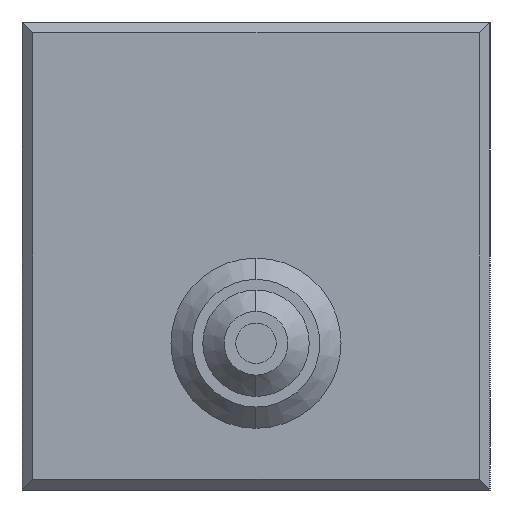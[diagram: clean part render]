
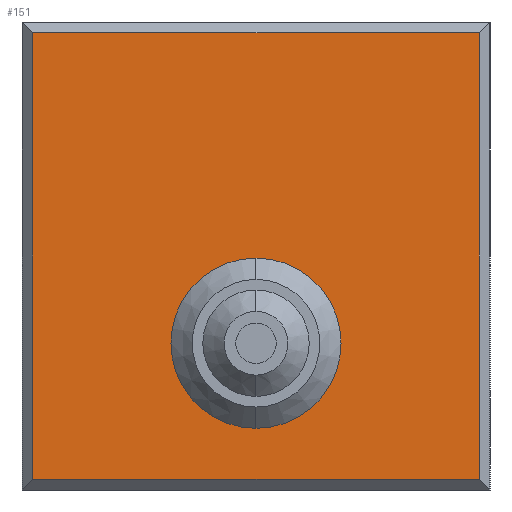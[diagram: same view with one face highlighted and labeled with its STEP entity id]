
A CAD part, left-side view. The second image highlights one B-rep face of the part: STEP entity #151.
In plain terms, the highlighted planar face has unit normal (-1, 0, 0).
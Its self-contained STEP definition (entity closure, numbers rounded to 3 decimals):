
#151=ADVANCED_FACE('',(#300,#301),#302,.F.);
#300=FACE_OUTER_BOUND('',#555,.T.);
#301=FACE_BOUND('',#556,.T.);
#302=PLANE('',#557);
#555=EDGE_LOOP('',(#957,#958,#959,#960));
#556=EDGE_LOOP('',(#961,#962));
#557=AXIS2_PLACEMENT_3D('',#963,#964,#965);
#957=ORIENTED_EDGE('',*,*,#1749,.F.);
#958=ORIENTED_EDGE('',*,*,#1750,.F.);
#959=ORIENTED_EDGE('',*,*,#1751,.F.);
#960=ORIENTED_EDGE('',*,*,#1752,.F.);
#961=ORIENTED_EDGE('',*,*,#1724,.T.);
#962=ORIENTED_EDGE('',*,*,#1734,.T.);
#963=CARTESIAN_POINT('',(-32.5,0.,0.));
#964=DIRECTION('',(1.0,0.0,0.0));
#965=DIRECTION('',(0.0,1.0,0.0));
#1724=EDGE_CURVE('',#2060,#2057,#2061,.T.);
#1734=EDGE_CURVE('',#2057,#2060,#2073,.T.);
#1749=EDGE_CURVE('',#2096,#2097,#2098,.T.);
#1750=EDGE_CURVE('',#2099,#2096,#2100,.T.);
#1751=EDGE_CURVE('',#2101,#2099,#2102,.T.);
#1752=EDGE_CURVE('',#2097,#2101,#2103,.T.);
#2057=VERTEX_POINT('',#2607);
#2060=VERTEX_POINT('',#2611);
#2061=CIRCLE('',#2612,1.5);
#2073=CIRCLE('',#2660,1.5);
#2096=VERTEX_POINT('',#2723);
#2097=VERTEX_POINT('',#2724);
#2098=LINE('',#2725,#2726);
#2099=VERTEX_POINT('',#2727);
#2100=LINE('',#2728,#2729);
#2101=VERTEX_POINT('',#2730);
#2102=LINE('',#2731,#2732);
#2103=LINE('',#2733,#2734);
#2607=CARTESIAN_POINT('',(-32.5,-1.5,-4.1));
#2611=CARTESIAN_POINT('',(-32.5,1.5,-4.1));
#2612=AXIS2_PLACEMENT_3D('',#3328,#3329,#3330);
#2660=AXIS2_PLACEMENT_3D('',#3350,#3351,#3352);
#2723=CARTESIAN_POINT('',(-32.5,-10.5,-10.5));
#2724=CARTESIAN_POINT('',(-32.5,10.5,-10.5));
#2725=CARTESIAN_POINT('',(-32.5,-10.5,-10.5));
#2726=VECTOR('',#3375,21.0);
#2727=CARTESIAN_POINT('',(-32.5,-10.5,10.5));
#2728=CARTESIAN_POINT('',(-32.5,-10.5,10.5));
#2729=VECTOR('',#3376,21.0);
#2730=CARTESIAN_POINT('',(-32.5,10.5,10.5));
#2731=CARTESIAN_POINT('',(-32.5,10.5,10.5));
#2732=VECTOR('',#3377,21.0);
#2733=CARTESIAN_POINT('',(-32.5,10.5,-10.5));
#2734=VECTOR('',#3378,21.0);
#3328=CARTESIAN_POINT('',(-32.5,0.,-4.1));
#3329=DIRECTION('',(1.0,0.0,0.0));
#3330=DIRECTION('',(0.0,-1.0,0.0));
#3350=CARTESIAN_POINT('',(-32.5,0.,-4.1));
#3351=DIRECTION('',(1.0,0.0,0.0));
#3352=DIRECTION('',(0.0,-1.0,0.0));
#3375=DIRECTION('',(0.0,1.0,0.0));
#3376=DIRECTION('',(0.0,0.0,-1.0));
#3377=DIRECTION('',(0.0,-1.0,0.0));
#3378=DIRECTION('',(0.0,0.0,1.0));
